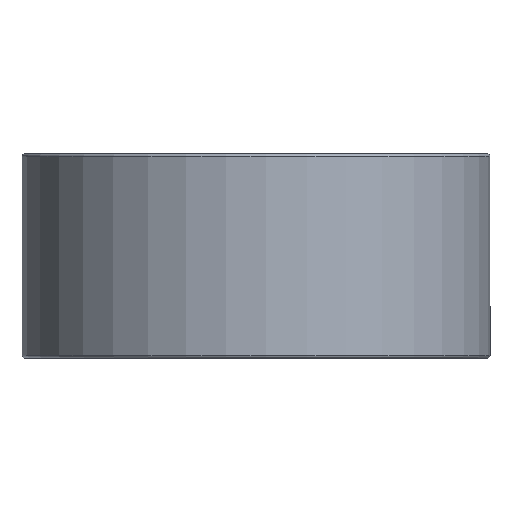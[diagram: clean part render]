
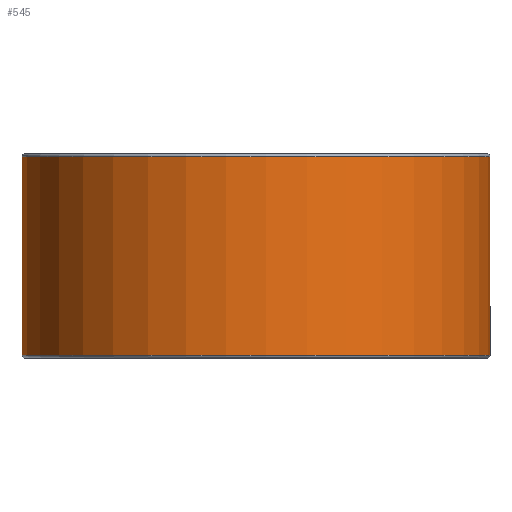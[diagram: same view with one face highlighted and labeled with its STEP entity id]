
A CAD part, front view. The second image highlights one B-rep face of the part: STEP entity #545.
In plain terms, the highlighted cylindrical face has radius 39 mm (diameter 78 mm), a full revolution.
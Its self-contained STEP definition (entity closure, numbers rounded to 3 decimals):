
#545=ADVANCED_FACE('',(#651,#652),#619,.T.);
#619=CYLINDRICAL_SURFACE('',#1420,39.);
#651=FACE_BOUND('',#731,.T.);
#652=FACE_BOUND('',#732,.T.);
#731=EDGE_LOOP('',(#851));
#732=EDGE_LOOP('',(#852));
#851=ORIENTED_EDGE('',*,*,#1211,.T.);
#852=ORIENTED_EDGE('',*,*,#1212,.T.);
#1111=VERTEX_POINT('',#1932);
#1112=VERTEX_POINT('',#1934);
#1211=EDGE_CURVE('',#1111,#1111,#1343,.T.);
#1212=EDGE_CURVE('',#1112,#1112,#1344,.T.);
#1343=CIRCLE('',#1418,39.);
#1344=CIRCLE('',#1419,39.);
#1418=AXIS2_PLACEMENT_3D('',#1931,#1580,#1581);
#1419=AXIS2_PLACEMENT_3D('',#1933,#1582,#1583);
#1420=AXIS2_PLACEMENT_3D('',#1935,#1584,#1585);
#1580=DIRECTION('',(0.,0.,-1.));
#1581=DIRECTION('',(1.,0.,0.));
#1582=DIRECTION('',(0.,0.,1.));
#1583=DIRECTION('',(1.,0.,0.));
#1584=DIRECTION('',(0.,0.,-1.));
#1585=DIRECTION('',(-1.,0.,0.));
#1931=CARTESIAN_POINT('',(0.,0.,33.5));
#1932=CARTESIAN_POINT('',(39.,0.,33.5));
#1933=CARTESIAN_POINT('',(0.,0.,0.5));
#1934=CARTESIAN_POINT('',(39.,0.,0.5));
#1935=CARTESIAN_POINT('',(0.,0.,34.));
